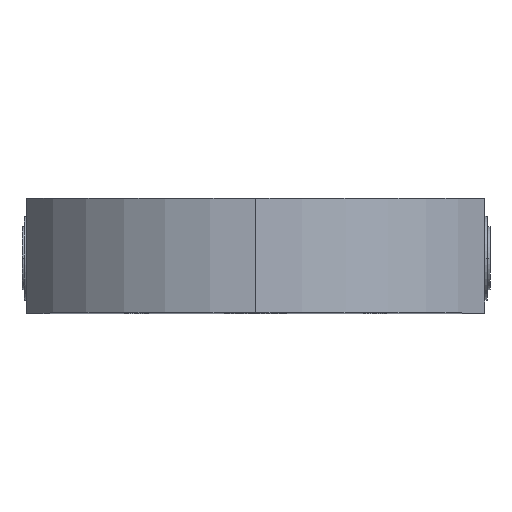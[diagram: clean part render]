
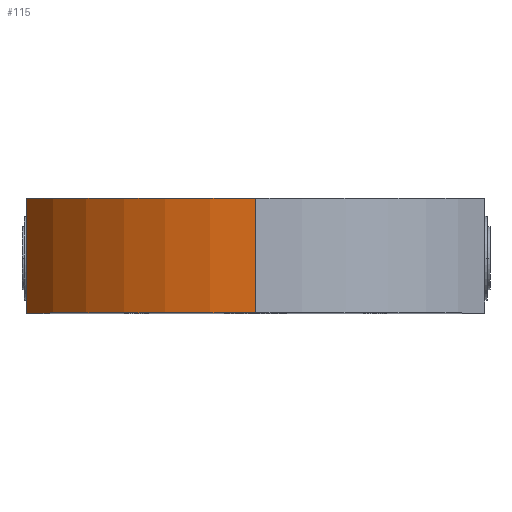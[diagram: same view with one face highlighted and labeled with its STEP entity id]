
A CAD part, top view. The second image highlights one B-rep face of the part: STEP entity #115.
In plain terms, the highlighted cylindrical face has radius 58 mm (diameter 116 mm), a partial arc.
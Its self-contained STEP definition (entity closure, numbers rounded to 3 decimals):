
#73 = ORIENTED_EDGE ( 'NONE', *, *, #5320, .T. ) ;
#97 = VERTEX_POINT ( 'NONE', #5030 ) ;
#115 = ADVANCED_FACE ( 'NONE', ( #5073 ), #3880, .T. ) ;
#370 = AXIS2_PLACEMENT_3D ( 'NONE', #1388, #4607, #3243 ) ;
#591 = EDGE_LOOP ( 'NONE', ( #5582, #1238, #1264, #73 ) ) ;
#623 = CIRCLE ( 'NONE', #4315, 58. ) ;
#656 = VECTOR ( 'NONE', #3789, 1000. ) ;
#878 = CARTESIAN_POINT ( 'NONE',  ( 0., 25., 0. ) ) ;
#914 = DIRECTION ( 'NONE',  ( 0., 1., 0. ) ) ;
#929 = CARTESIAN_POINT ( 'NONE',  ( 0., 0., 58. ) ) ;
#1238 = ORIENTED_EDGE ( 'NONE', *, *, #1646, .T. ) ;
#1264 = ORIENTED_EDGE ( 'NONE', *, *, #1530, .F. ) ;
#1388 = CARTESIAN_POINT ( 'NONE',  ( 0., 0., 0. ) ) ;
#1530 = EDGE_CURVE ( 'NONE', #4083, #2697, #4717, .T. ) ;
#1646 = EDGE_CURVE ( 'NONE', #97, #2697, #5201, .T. ) ;
#1752 = DIRECTION ( 'NONE',  ( 0., 1., 0. ) ) ;
#1969 = AXIS2_PLACEMENT_3D ( 'NONE', #878, #1752, #4077 ) ;
#2662 = DIRECTION ( 'NONE',  ( 0., 0., 1. ) ) ;
#2697 = VERTEX_POINT ( 'NONE', #2825 ) ;
#2747 = CARTESIAN_POINT ( 'NONE',  ( -50., 0., 29.394 ) ) ;
#2818 = VECTOR ( 'NONE', #914, 1000. ) ;
#2825 = CARTESIAN_POINT ( 'NONE',  ( 0., 25., 58. ) ) ;
#3059 = VERTEX_POINT ( 'NONE', #5343 ) ;
#3243 = DIRECTION ( 'NONE',  ( 0., 0., 1. ) ) ;
#3789 = DIRECTION ( 'NONE',  ( 0., -1., 0. ) ) ;
#3880 = CYLINDRICAL_SURFACE ( 'NONE', #370, 58. ) ;
#4077 = DIRECTION ( 'NONE',  ( 0., 0., 1. ) ) ;
#4083 = VERTEX_POINT ( 'NONE', #5351 ) ;
#4187 = EDGE_CURVE ( 'NONE', #3059, #97, #623, .T. ) ;
#4315 = AXIS2_PLACEMENT_3D ( 'NONE', #5360, #5400, #2662 ) ;
#4405 = LINE ( 'NONE', #2747, #656 ) ;
#4607 = DIRECTION ( 'NONE',  ( 0., 1., 0. ) ) ;
#4717 = CIRCLE ( 'NONE', #1969, 58. ) ;
#5030 = CARTESIAN_POINT ( 'NONE',  ( 0., 0., 58. ) ) ;
#5073 = FACE_OUTER_BOUND ( 'NONE', #591, .T. ) ;
#5201 = LINE ( 'NONE', #929, #2818 ) ;
#5320 = EDGE_CURVE ( 'NONE', #4083, #3059, #4405, .T. ) ;
#5343 = CARTESIAN_POINT ( 'NONE',  ( -50., 0., 29.394 ) ) ;
#5351 = CARTESIAN_POINT ( 'NONE',  ( -50., 25., 29.394 ) ) ;
#5360 = CARTESIAN_POINT ( 'NONE',  ( 0., 0., 0. ) ) ;
#5400 = DIRECTION ( 'NONE',  ( 0., 1., 0. ) ) ;
#5582 = ORIENTED_EDGE ( 'NONE', *, *, #4187, .T. ) ;
